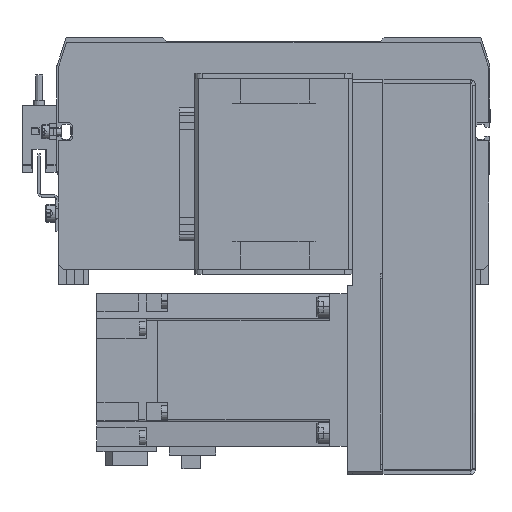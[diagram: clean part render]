
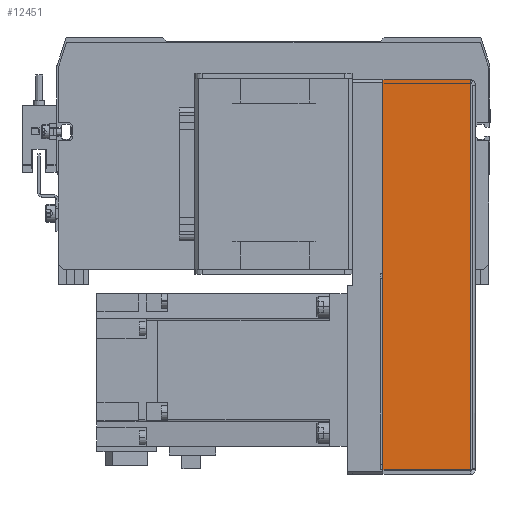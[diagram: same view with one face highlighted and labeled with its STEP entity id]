
A CAD part, front view. The second image highlights one B-rep face of the part: STEP entity #12451.
In plain terms, the highlighted planar face has unit normal (0, -1, 0).
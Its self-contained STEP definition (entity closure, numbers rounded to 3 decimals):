
#99 = DIRECTION ( 'NONE',  ( 1., 0., 0. ) ) ;
#297 = VECTOR ( 'NONE', #28396, 1000. ) ;
#1104 = VECTOR ( 'NONE', #10972, 1000. ) ;
#1695 = ORIENTED_EDGE ( 'NONE', *, *, #23291, .T. ) ;
#4182 = CARTESIAN_POINT ( 'NONE',  ( 0.737, -14.163, 20.673 ) ) ;
#4563 = DIRECTION ( 'NONE',  ( 0., 1., 0. ) ) ;
#4676 = FACE_OUTER_BOUND ( 'NONE', #32043, .T. ) ;
#7074 = CARTESIAN_POINT ( 'NONE',  ( 35., -14.163, 18.873 ) ) ;
#7958 = LINE ( 'NONE', #24534, #14410 ) ;
#10235 = CARTESIAN_POINT ( 'NONE',  ( 0.737, -14.163, 18.873 ) ) ;
#10972 = DIRECTION ( 'NONE',  ( 0., 0., -1. ) ) ;
#12451 = ADVANCED_FACE ( 'NONE', ( #4676 ), #18254, .F. ) ;
#13814 = ORIENTED_EDGE ( 'NONE', *, *, #19003, .F. ) ;
#14269 = CARTESIAN_POINT ( 'NONE',  ( 35., -14.163, 20.673 ) ) ;
#14410 = VECTOR ( 'NONE', #99, 1000. ) ;
#17025 = VERTEX_POINT ( 'NONE', #40002 ) ;
#17570 = CARTESIAN_POINT ( 'NONE',  ( 0.737, -14.163, 18.873 ) ) ;
#17959 = CARTESIAN_POINT ( 'NONE',  ( 0., -14.163, 0. ) ) ;
#18254 = PLANE ( 'NONE',  #27878 ) ;
#19003 = EDGE_CURVE ( 'NONE', #37944, #41159, #26062, .T. ) ;
#19038 = VECTOR ( 'NONE', #27402, 1000. ) ;
#21067 = ORIENTED_EDGE ( 'NONE', *, *, #34555, .F. ) ;
#23291 = EDGE_CURVE ( 'NONE', #39523, #17025, #7958, .T. ) ;
#24534 = CARTESIAN_POINT ( 'NONE',  ( 0.737, -14.163, -134.327 ) ) ;
#26062 = LINE ( 'NONE', #10235, #19038 ) ;
#27402 = DIRECTION ( 'NONE',  ( 1., 0., 0. ) ) ;
#27878 = AXIS2_PLACEMENT_3D ( 'NONE', #17959, #4563, #35866 ) ;
#28396 = DIRECTION ( 'NONE',  ( 0., 0., 1. ) ) ;
#29756 = EDGE_CURVE ( 'NONE', #39523, #37944, #41727, .T. ) ;
#31565 = CARTESIAN_POINT ( 'NONE',  ( 0.737, -14.163, -134.327 ) ) ;
#32043 = EDGE_LOOP ( 'NONE', ( #44047, #1695, #21067, #13814 ) ) ;
#34555 = EDGE_CURVE ( 'NONE', #41159, #17025, #40356, .T. ) ;
#35866 = DIRECTION ( 'NONE',  ( -1., 0., 0. ) ) ;
#37944 = VERTEX_POINT ( 'NONE', #17570 ) ;
#39523 = VERTEX_POINT ( 'NONE', #31565 ) ;
#40002 = CARTESIAN_POINT ( 'NONE',  ( 35., -14.163, -134.327 ) ) ;
#40356 = LINE ( 'NONE', #14269, #1104 ) ;
#41159 = VERTEX_POINT ( 'NONE', #7074 ) ;
#41727 = LINE ( 'NONE', #4182, #297 ) ;
#44047 = ORIENTED_EDGE ( 'NONE', *, *, #29756, .F. ) ;
